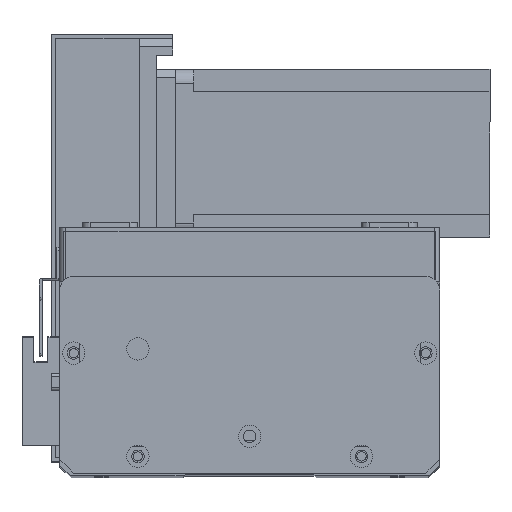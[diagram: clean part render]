
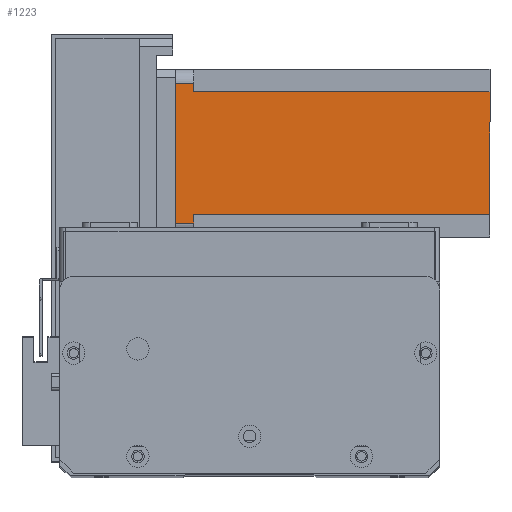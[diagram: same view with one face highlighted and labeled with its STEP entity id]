
A CAD part, top view. The second image highlights one B-rep face of the part: STEP entity #1223.
In plain terms, the highlighted planar face has unit normal (0, 0, 1) as drawn and (0, -1, 0) by its records, which use the part's own axes.
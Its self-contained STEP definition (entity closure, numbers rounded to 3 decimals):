
#463 = CARTESIAN_POINT ( 'NONE',  ( 5., 0., -112.5 ) ) ;
#593 = LINE ( 'NONE', #22402, #23256 ) ;
#907 = EDGE_CURVE ( 'NONE', #5560, #5816, #13765, .T. ) ;
#1223 = ADVANCED_FACE ( 'NONE', ( #1445 ), #8018, .T. ) ;
#1262 = VERTEX_POINT ( 'NONE', #3637 ) ;
#1445 = FACE_OUTER_BOUND ( 'NONE', #9696, .T. ) ;
#1544 = DIRECTION ( 'NONE',  ( 0., -1., 0. ) ) ;
#1915 = EDGE_CURVE ( 'NONE', #1262, #18436, #8956, .T. ) ;
#2071 = VERTEX_POINT ( 'NONE', #8917 ) ;
#2302 = CARTESIAN_POINT ( 'NONE',  ( 55., 0., -112.5 ) ) ;
#2665 = AXIS2_PLACEMENT_3D ( 'NONE', #27831, #1544, #16880 ) ;
#2803 = LINE ( 'NONE', #463, #7906 ) ;
#3112 = VECTOR ( 'NONE', #19397, 1000. ) ;
#3637 = CARTESIAN_POINT ( 'NONE',  ( 8., 0., -6.5 ) ) ;
#4017 = CARTESIAN_POINT ( 'NONE',  ( 8., 0., -6.5 ) ) ;
#4477 = DIRECTION ( 'NONE',  ( 0., 0., 1. ) ) ;
#4849 = VERTEX_POINT ( 'NONE', #21315 ) ;
#5161 = EDGE_CURVE ( 'NONE', #22368, #18436, #2803, .T. ) ;
#5560 = VERTEX_POINT ( 'NONE', #12790 ) ;
#5592 = DIRECTION ( 'NONE',  ( 0., 0., -1. ) ) ;
#5816 = VERTEX_POINT ( 'NONE', #11340 ) ;
#6396 = ORIENTED_EDGE ( 'NONE', *, *, #1915, .F. ) ;
#7396 = VECTOR ( 'NONE', #9344, 1000. ) ;
#7906 = VECTOR ( 'NONE', #17998, 1000. ) ;
#8018 = PLANE ( 'NONE',  #2665 ) ;
#8506 = DIRECTION ( 'NONE',  ( 1., 0., 0. ) ) ;
#8917 = CARTESIAN_POINT ( 'NONE',  ( 8., 0., -112.5 ) ) ;
#8956 = LINE ( 'NONE', #4017, #3112 ) ;
#8971 = ORIENTED_EDGE ( 'NONE', *, *, #5161, .T. ) ;
#9150 = CARTESIAN_POINT ( 'NONE',  ( 55., 0., -6.5 ) ) ;
#9217 = DIRECTION ( 'NONE',  ( 1., 0., 0. ) ) ;
#9344 = DIRECTION ( 'NONE',  ( 0., 0., 1. ) ) ;
#9696 = EDGE_LOOP ( 'NONE', ( #21874, #26014, #11448, #8971, #6396, #14598, #11461, #17665 ) ) ;
#9984 = EDGE_CURVE ( 'NONE', #22368, #4849, #593, .T. ) ;
#11340 = CARTESIAN_POINT ( 'NONE',  ( 52., 0., -112.5 ) ) ;
#11385 = CARTESIAN_POINT ( 'NONE',  ( 5., 0., -6.5 ) ) ;
#11448 = ORIENTED_EDGE ( 'NONE', *, *, #9984, .F. ) ;
#11461 = ORIENTED_EDGE ( 'NONE', *, *, #16503, .T. ) ;
#12790 = CARTESIAN_POINT ( 'NONE',  ( 52., 0., -6.5 ) ) ;
#12850 = VECTOR ( 'NONE', #8506, 1000. ) ;
#13467 = DIRECTION ( 'NONE',  ( 1., 0., 0. ) ) ;
#13765 = LINE ( 'NONE', #23197, #18934 ) ;
#14312 = EDGE_CURVE ( 'NONE', #15275, #4849, #19247, .T. ) ;
#14598 = ORIENTED_EDGE ( 'NONE', *, *, #22735, .F. ) ;
#14948 = LINE ( 'NONE', #23921, #12850 ) ;
#15275 = VERTEX_POINT ( 'NONE', #9150 ) ;
#15826 = LINE ( 'NONE', #17802, #26814 ) ;
#16503 = EDGE_CURVE ( 'NONE', #2071, #5816, #14948, .T. ) ;
#16880 = DIRECTION ( 'NONE',  ( 0., 0., -1. ) ) ;
#17665 = ORIENTED_EDGE ( 'NONE', *, *, #907, .F. ) ;
#17802 = CARTESIAN_POINT ( 'NONE',  ( 52., 0., -6.5 ) ) ;
#17998 = DIRECTION ( 'NONE',  ( 0., 0., -1. ) ) ;
#18436 = VERTEX_POINT ( 'NONE', #11385 ) ;
#18934 = VECTOR ( 'NONE', #5592, 1000. ) ;
#19056 = EDGE_CURVE ( 'NONE', #5560, #15275, #15826, .T. ) ;
#19247 = LINE ( 'NONE', #2302, #24427 ) ;
#19397 = DIRECTION ( 'NONE',  ( -1., 0., 0. ) ) ;
#21215 = CARTESIAN_POINT ( 'NONE',  ( 5., 0., 0. ) ) ;
#21315 = CARTESIAN_POINT ( 'NONE',  ( 55., 0., 0. ) ) ;
#21874 = ORIENTED_EDGE ( 'NONE', *, *, #19056, .T. ) ;
#22368 = VERTEX_POINT ( 'NONE', #21215 ) ;
#22402 = CARTESIAN_POINT ( 'NONE',  ( 0., 0., 0. ) ) ;
#22551 = CARTESIAN_POINT ( 'NONE',  ( 8., 0., -112.5 ) ) ;
#22735 = EDGE_CURVE ( 'NONE', #2071, #1262, #24302, .T. ) ;
#23197 = CARTESIAN_POINT ( 'NONE',  ( 52., 0., -112.5 ) ) ;
#23256 = VECTOR ( 'NONE', #9217, 1000. ) ;
#23921 = CARTESIAN_POINT ( 'NONE',  ( 0., 0., -112.5 ) ) ;
#24302 = LINE ( 'NONE', #22551, #7396 ) ;
#24427 = VECTOR ( 'NONE', #4477, 1000. ) ;
#26014 = ORIENTED_EDGE ( 'NONE', *, *, #14312, .T. ) ;
#26814 = VECTOR ( 'NONE', #13467, 1000. ) ;
#27831 = CARTESIAN_POINT ( 'NONE',  ( 0., 0., -112.5 ) ) ;
